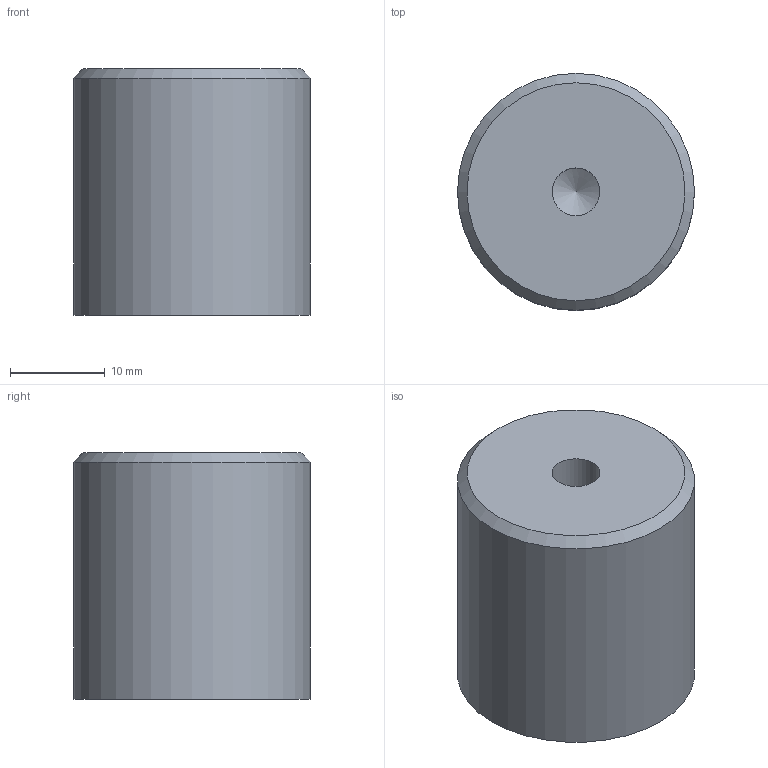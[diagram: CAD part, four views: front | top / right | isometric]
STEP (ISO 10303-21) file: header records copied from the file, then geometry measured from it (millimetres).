
FILE_DESCRIPTION(/* description */ (''),/* implementation_level */ '2;1');
FILE_NAME(/* name */ 'C:/Users/hiroshi_y/Documents/Fusion 360/PMH-1-25x26.step',/* time_stamp */ '2022-11-28T16:50:51+09:00',/* author */ (''),/* organization */ (''),/* preprocessor_version */ 'ST-DEVELOPER v19',/* originating_system */ 'Autodesk Translation Framework v11.7.0.108',/* authorisation */ '');
FILE_SCHEMA (('AUTOMOTIVE_DESIGN { 1 0 10303 214 3 1 1 }'));
Length unit declared in the file: millimetre
Products named in the file (1): PMH-1-25x26
Bounding box: 25 x 25 x 26 mm (x, y, z)
Volume: 12568.2 mm3; surface area: 3096 mm2
Topology: 1 solids, 1 shells, 10 faces, 16 edges, 10 vertices
Faces by surface type: cylinder 4, plane 4, cone 2
Full cylindrical faces by diameter (mm): 5.035 x1, 15 x1, 20 x1, 25 x1
Entity records: 276 total; most frequent: DIRECTION 46, CARTESIAN_POINT 36, ORIENTED_EDGE 30, AXIS2_PLACEMENT_3D 20, EDGE_CURVE 15, EDGE_LOOP 13, FACE_OUTER_BOUND 10, VERTEX_POINT 10
